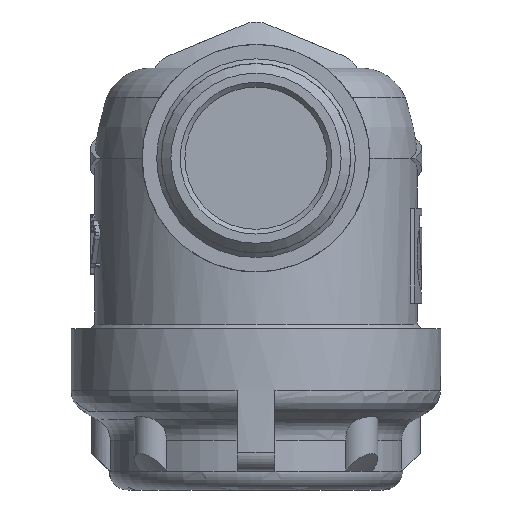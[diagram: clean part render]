
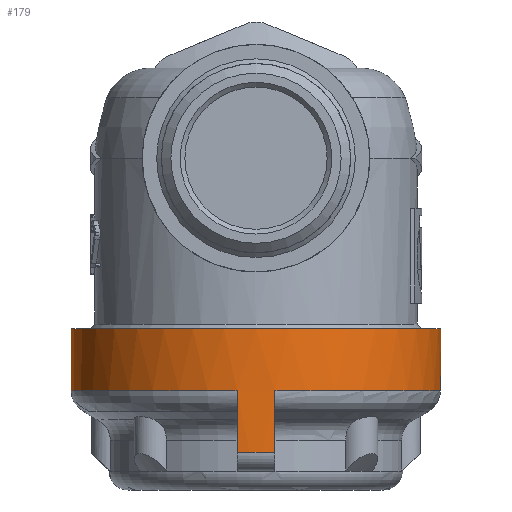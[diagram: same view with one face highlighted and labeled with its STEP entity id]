
A CAD part, front view. The second image highlights one B-rep face of the part: STEP entity #179.
In plain terms, the highlighted cylindrical face has radius 19.5 mm (diameter 39 mm), a full revolution.
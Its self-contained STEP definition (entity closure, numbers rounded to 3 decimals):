
#179=ADVANCED_FACE('',(#1160,#1162),#1164,.T.);
#1160=FACE_BOUND('',#1161,.T.);
#1161=EDGE_LOOP('',(#2281,#2282,#2283,#2284,#2285));
#1162=FACE_OUTER_BOUND('',#1163,.T.);
#1163=EDGE_LOOP('',(#2286));
#1164=CYLINDRICAL_SURFACE('',#1165,19.5);
#1165=AXIS2_PLACEMENT_3D('',#1166,#1167,#1168);
#1166=CARTESIAN_POINT('',(0.,0.,-17.));
#1167=DIRECTION('',(0.,0.,-1.));
#1168=DIRECTION('',(-1.,0.,0.));
#2281=ORIENTED_EDGE('',*,*,#2911,.F.);
#2282=ORIENTED_EDGE('',*,*,#2912,.F.);
#2283=ORIENTED_EDGE('',*,*,#2913,.T.);
#2284=ORIENTED_EDGE('',*,*,#2914,.F.);
#2285=ORIENTED_EDGE('',*,*,#2915,.F.);
#2286=ORIENTED_EDGE('',*,*,#2883,.F.);
#2883=EDGE_CURVE('',#3586,#3586,#3587,.F.);
#2911=EDGE_CURVE('',#3626,#3627,#3628,.T.);
#2912=EDGE_CURVE('',#3629,#3626,#3630,.T.);
#2913=EDGE_CURVE('',#3629,#3631,#3632,.T.);
#2914=EDGE_CURVE('',#3633,#3631,#3634,.T.);
#2915=EDGE_CURVE('',#3627,#3633,#3635,.T.);
#3586=VERTEX_POINT('',#7571);
#3587=CIRCLE('',#7572,19.5);
#3626=VERTEX_POINT('',#7829);
#3627=VERTEX_POINT('',#7830);
#3628=CIRCLE('',#7831,19.5);
#3629=VERTEX_POINT('',#7835);
#3630=CIRCLE('',#7836,19.5);
#3631=VERTEX_POINT('',#7840);
#3632=LINE('',#7841,#7842);
#3633=VERTEX_POINT('',#7844);
#3634=CIRCLE('',#7845,19.5);
#3635=LINE('',#7849,#7850);
#7571=CARTESIAN_POINT('',(-19.5,0.,-18.));
#7572=AXIS2_PLACEMENT_3D('',#7573,#7574,#7575);
#7573=CARTESIAN_POINT('',(0.,0.,-18.));
#7574=DIRECTION('',(0.,0.,-1.));
#7575=DIRECTION('',(-1.,0.,0.));
#7829=CARTESIAN_POINT('',(-19.5,0.,-24.557));
#7830=CARTESIAN_POINT('',(2.,-19.397,-24.557));
#7831=AXIS2_PLACEMENT_3D('',#7832,#7833,#7834);
#7832=CARTESIAN_POINT('',(0.,0.,-24.557));
#7833=DIRECTION('',(0.,0.,-1.));
#7834=DIRECTION('',(-1.,0.,0.));
#7835=CARTESIAN_POINT('',(-2.,-19.397,-24.557));
#7836=AXIS2_PLACEMENT_3D('',#7837,#7838,#7839);
#7837=CARTESIAN_POINT('',(0.,0.,-24.557));
#7838=DIRECTION('',(0.,0.,-1.));
#7839=DIRECTION('',(-0.103,-0.995,0.));
#7840=CARTESIAN_POINT('',(-2.,-19.397,-31.));
#7841=CARTESIAN_POINT('',(-2.,-19.397,-24.557));
#7842=VECTOR('',#7843,1.);
#7843=DIRECTION('',(0.,0.,-1.));
#7844=CARTESIAN_POINT('',(2.,-19.397,-31.));
#7845=AXIS2_PLACEMENT_3D('',#7846,#7847,#7848);
#7846=CARTESIAN_POINT('',(0.,0.,-31.));
#7847=DIRECTION('',(0.,0.,-1.));
#7848=DIRECTION('',(0.103,-0.995,0.));
#7849=CARTESIAN_POINT('',(2.,-19.397,-24.557));
#7850=VECTOR('',#7851,1.);
#7851=DIRECTION('',(0.,0.,-1.));
